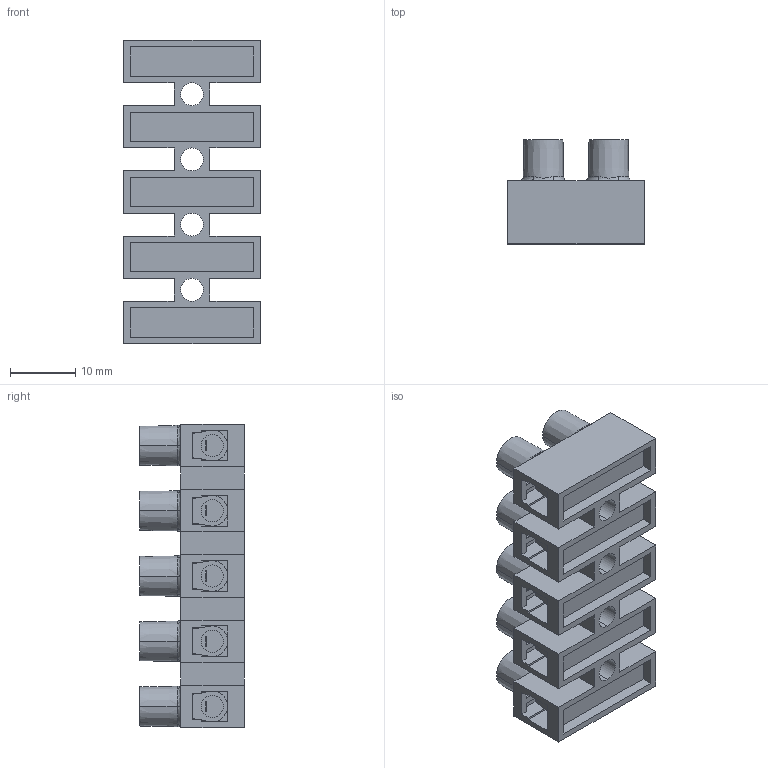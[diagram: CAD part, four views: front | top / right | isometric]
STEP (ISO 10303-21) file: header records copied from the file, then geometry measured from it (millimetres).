
FILE_DESCRIPTION (( 'STEP AP214' ), '1' );
FILE_NAME ('323-V-HDS-05.STEP', '2008-03-17T21:45:36', ( 'weco' ), ( 'weco' ), 'SwSTEP 2.0', 'SolidWorks 2007', '' );
FILE_SCHEMA (( 'AUTOMOTIVE_DESIGN' ));
Length unit declared in the file: millimetre
Products named in the file (1): 323-V-HDS-05
Bounding box: 21 x 16 x 46.5 mm (x, y, z)
Volume: 6672 mm3; surface area: 7895.8 mm2
Topology: 1 solids, 1 shells, 946 faces, 2527 edges, 1648 vertices
Faces by surface type: plane 638, cylinder 163, cone 75, bspline 70
Entity records: 34381 total; most frequent: CARTESIAN_POINT 11155, ORIENTED_EDGE 5054, DIRECTION 4559, EDGE_CURVE 2527, VECTOR 1751, LINE 1751, VERTEX_POINT 1648, AXIS2_PLACEMENT_3D 1404
